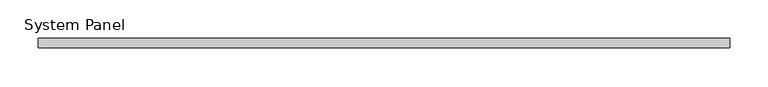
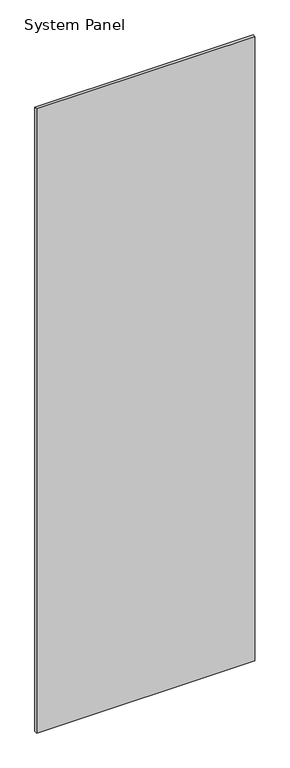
"""IFC4 building model written with IfcOpenShell, lengths in millimetres: plate geometry, System Panel : CR-BARANDA."""

import ifcopenshell
import ifcopenshell.guid

model = None  # the IFC model being written
_history = None  # IfcOwnerHistory: only IFC2X3 demands one
_inside = {}  # id of a spatial element -> (the spatial element, [elements in it])
_under = {}  # id of a project, library or spatial element -> (it, [spatial elements below it])
_declared = {}  # id of a project -> (the project, [libraries it declares])
_typed = {}  # id of a type object -> (the type object, [elements of that type])
_made_of = {}  # id of a material, layer set ... -> (it, [elements and type objects made of it])


def new_model(schema):
    """Start an empty IFC model of exactly this schema.

    Asked for "IFC4X3", IfcOpenShell would pick the latest addendum, in which some entities
    have other attributes; the version numbers below select the first issue.
    IFC2X3 requires an IfcOwnerHistory on every rooted entity: one is made here for all.
    """
    global model, _history
    if schema == "IFC4X3":
        model = ifcopenshell.file(schema_version=(4, 3, 0, 0))
    else:
        model = ifcopenshell.file(schema=schema)
    _inside.clear()
    _under.clear()
    _declared.clear()
    _typed.clear()
    _made_of.clear()
    _history = None
    if model.schema == "IFC2X3":
        org = make("IfcOrganization", Name="unknown")
        user = make(
            "IfcPersonAndOrganization",
            ThePerson=make("IfcPerson", FamilyName="unknown"),
            TheOrganization=org,
        )
        app = make(
            "IfcApplication",
            ApplicationDeveloper=org,
            Version="unknown",
            ApplicationFullName="unknown",
            ApplicationIdentifier="unknown",
        )
        _history = make(
            "IfcOwnerHistory",
            OwningUser=user,
            OwningApplication=app,
            ChangeAction="ADDED",
            CreationDate=0,
        )
    return model


def make(cls, **values):
    """One entity of the class cls with the attributes given. An attribute that is None is left unset."""
    return model.create_entity(
        cls, **{name: value for name, value in values.items() if value is not None}
    )


def rooted(cls, **values):
    """An entity with a GlobalId (a new one), such as an element, a storey or a relation."""
    return make(cls, GlobalId=ifcopenshell.guid.new(), OwnerHistory=_history, **values)


def si_unit(unit_type, name, prefix=None):
    """IfcSIUnit, for example si_unit("LENGTHUNIT", "METRE", prefix="MILLI")."""
    return make("IfcSIUnit", UnitType=unit_type, Prefix=prefix, Name=name)


def assignment(units):
    """IfcUnitAssignment: the units of a project."""
    return None if units is None else make("IfcUnitAssignment", Units=units)


def point(xyz):
    """IfcCartesianPoint."""
    return None if xyz is None else make("IfcCartesianPoint", Coordinates=xyz)


def direction(xyz):
    """IfcDirection."""
    return None if xyz is None else make("IfcDirection", DirectionRatios=xyz)


def frame(location, z_axis=None, x_axis=None):
    """IfcAxis2Placement3D, a coordinate frame: its origin and axes. An axis left out is left unset."""
    return make(
        "IfcAxis2Placement3D",
        Location=point(location),
        Axis=direction(z_axis),
        RefDirection=direction(x_axis),
    )


def origin():
    """The frame at (0, 0, 0) with its axes left unset."""
    return frame((0.0, 0.0, 0.0))


def origin_with_axes():
    """The frame at (0, 0, 0) with the z axis (0, 0, 1) and the x axis (1, 0, 0) written out."""
    return frame((0.0, 0.0, 0.0), z_axis=(0.0, 0.0, 1.0), x_axis=(1.0, 0.0, 0.0))


def place(relative_to, where):
    """IfcLocalPlacement: puts the frame where relative to a parent placement (None: the world)."""
    return make(
        "IfcLocalPlacement", PlacementRelTo=relative_to, RelativePlacement=where
    )


def context(
    kind, dimensions, precision=None, world=None, true_north=None, identifier=None
):
    """IfcGeometricRepresentationContext, for example the 3D "Model" context."""
    return make(
        "IfcGeometricRepresentationContext",
        ContextIdentifier=identifier,
        ContextType=kind,
        CoordinateSpaceDimension=dimensions,
        Precision=precision,
        WorldCoordinateSystem=world,
        TrueNorth=true_north,
    )


def project(units=None, contexts=None):
    """IfcProject with its units and contexts."""
    return rooted(
        "IfcProject",
        Name="project",
        RepresentationContexts=contexts,
        UnitsInContext=assignment(units),
    )


def spatial(cls, under=None, at=None, **own):
    """A site, building, storey or space (cls), placed at a placement, below another one or the project."""
    s = rooted(cls, ObjectPlacement=at, **own)
    if under is not None:
        _under.setdefault(under.id(), (under, []))[1].append(s)
    return s


def polyline(points):
    """IfcPolyline through the points."""
    return make("IfcPolyline", Points=[point(p) for p in points])


def outline(outer, holes=None, kind="AREA"):
    """IfcArbitraryClosedProfileDef: a profile drawn as a closed curve; with holes, ...WithVoids."""
    if holes is None:
        return make("IfcArbitraryClosedProfileDef", ProfileType=kind, OuterCurve=outer)
    return make(
        "IfcArbitraryProfileDefWithVoids",
        ProfileType=kind,
        OuterCurve=outer,
        InnerCurves=holes,
    )


def extrude(swept, where, along, depth):
    """IfcExtrudedAreaSolid: the profile swept, set in the frame where, extruded along a direction by depth."""
    return make(
        "IfcExtrudedAreaSolid",
        SweptArea=swept,
        Position=where,
        ExtrudedDirection=direction(along),
        Depth=depth,
    )


def shape(context_of_items, identifier, shape_type, items):
    """IfcShapeRepresentation: the items that make up one representation, for example the "Body"."""
    return make(
        "IfcShapeRepresentation",
        ContextOfItems=context_of_items,
        RepresentationIdentifier=identifier,
        RepresentationType=shape_type,
        Items=items,
    )


def source(mapping_origin, context_of_items, identifier, shape_type, items):
    """IfcRepresentationMap: a shape defined once, which mapped items show again and again."""
    return make(
        "IfcRepresentationMap",
        MappingOrigin=mapping_origin,
        MappedRepresentation=shape(context_of_items, identifier, shape_type, items),
    )


def transform(
    local_origin,
    x_axis=None,
    y_axis=None,
    z_axis=None,
    scale=None,
    scale2=None,
    scale3=None,
    uniform=True,
):
    """IfcCartesianTransformationOperator3D, or its non-uniform kind. x_axis, y_axis, z_axis: its Axis1, 2, 3."""
    if uniform:
        return make(
            "IfcCartesianTransformationOperator3D",
            Axis1=direction(x_axis),
            Axis2=direction(y_axis),
            LocalOrigin=point(local_origin),
            Scale=scale,
            Axis3=direction(z_axis),
        )
    return make(
        "IfcCartesianTransformationOperator3DnonUniform",
        Axis1=direction(x_axis),
        Axis2=direction(y_axis),
        LocalOrigin=point(local_origin),
        Scale=scale,
        Axis3=direction(z_axis),
        Scale2=scale2,
        Scale3=scale3,
    )


def mapped(mapping_source, mapping_target):
    """IfcMappedItem: shows the shape of a source again, moved by a transform."""
    return make(
        "IfcMappedItem", MappingSource=mapping_source, MappingTarget=mapping_target
    )


def made_of(thing, what):
    """Note that an element or type object is made of a material, layer set ...; save() writes the relation."""
    if what is not None:
        _made_of.setdefault(what.id(), (what, []))[1].append(thing)
    return thing


def element(
    cls,
    number,
    at=None,
    inside=None,
    cuts=None,
    type_object=None,
    material=None,
    context=None,
    identifier="Body",
    shape_type=None,
    held_by="IfcProductDefinitionShape",
    body=None,
    shapes=None,
    **own,
):
    """One element of the class cls, such as IfcWall. Its Tag is "e" and its number.

    at: its placement. inside: the storey or other place that contains it. cuts: it is an
    opening in that element (IfcRelVoidsElement). A single representation is given by context,
    identifier, shape_type and body (its items); several are given by shapes. held_by: the class
    of the entity that holds the representations. save() writes the other relations.
    """
    e = rooted(cls, Tag="e%d" % number, ObjectPlacement=at, **own)
    if body is not None:
        shapes = [shape(context, identifier, shape_type, body)]
    if shapes is not None:
        e.Representation = make(held_by, Representations=shapes)
    if inside is not None:
        _inside.setdefault(inside.id(), (inside, []))[1].append(e)
    if cuts is not None:
        rooted(
            "IfcRelVoidsElement", RelatingBuildingElement=cuts, RelatedOpeningElement=e
        )
    if type_object is not None:
        _typed.setdefault(type_object.id(), (type_object, []))[1].append(e)
    return made_of(e, material)


def aggregate(whole, parts):
    """IfcRelAggregates: a whole, such as a stair, and the parts it consists of."""
    return rooted("IfcRelAggregates", RelatingObject=whole, RelatedObjects=parts)


def save(model, path):
    """Write the relations noted so far, then the file.

    IfcRelAggregates (storeys below a building ...), IfcRelContainedInSpatialStructure (elements
    in a storey), IfcRelDefinesByType, IfcRelAssociatesMaterial and IfcRelDeclares: one each for
    every whole, place, type object, material and project.
    """
    for whole, parts in _under.values():
        aggregate(whole, parts)
    for where, things in _inside.values():
        rooted(
            "IfcRelContainedInSpatialStructure",
            RelatedElements=things,
            RelatingStructure=where,
        )
    for kind, things in _typed.values():
        rooted("IfcRelDefinesByType", RelatedObjects=things, RelatingType=kind)
    for what, things in _made_of.values():
        rooted("IfcRelAssociatesMaterial", RelatedObjects=things, RelatingMaterial=what)
    for by, libraries in _declared.values():
        rooted("IfcRelDeclares", RelatingContext=by, RelatedDefinitions=libraries)
    model.write(path)


def system_panel_8f9a12f6(model_context):
    return source(origin(), model_context, "Body", "SweptSolid", [
        extrude(outline(polyline([(450.0000035, -6.25), (-450.0000035, -6.25), (-450.0000035, 6.25), (450.0000035, 6.25), (450.0000035, -6.25)])), origin_with_axes(), (0.0, 0.0, 1.0), 2720.0),
    ])


if __name__ == "__main__":
    model = new_model("IFC4")
    model_context = context("Model", 3, world=origin())
    ifc_project = project(units=[si_unit("LENGTHUNIT", "METRE", prefix="MILLI")], contexts=[model_context])
    site = spatial("IfcSite", under=ifc_project)
    building = spatial("IfcBuilding", under=site)
    placement = place(None, origin())
    system_panel_shape = system_panel_8f9a12f6(model_context)
    element("IfcPlate", 1, ObjectType="System Panel : CR-BARANDA", at=placement, inside=building, context=model_context, shape_type="MappedRepresentation", body=[
        mapped(system_panel_shape, transform((0.0, 0.0, 0.0), x_axis=(1.0, 0.0, 0.0), y_axis=(0.0, 1.0, 0.0), z_axis=(0.0, 0.0, 1.0))),
    ])
    save(model, "model.ifc")
